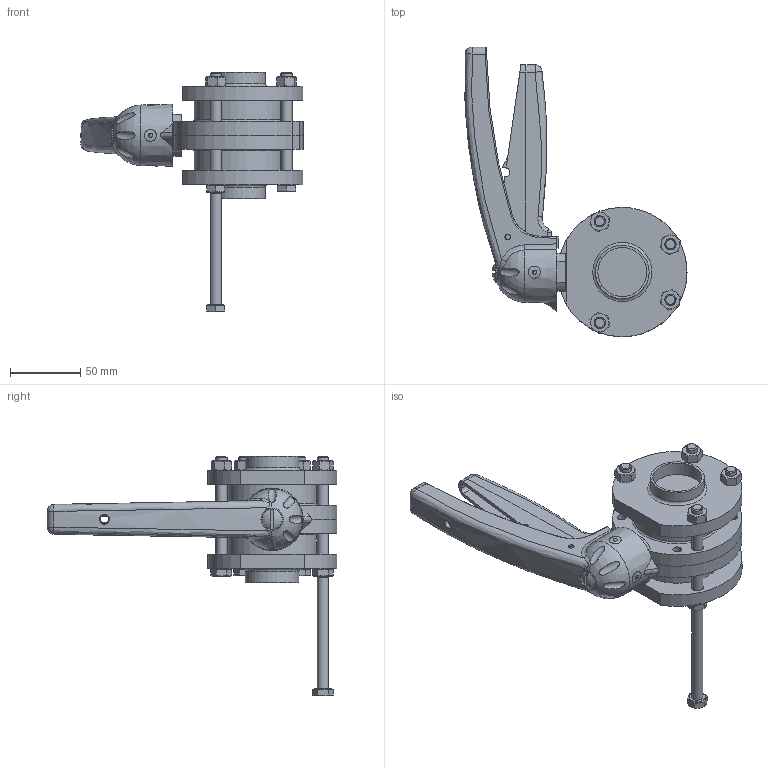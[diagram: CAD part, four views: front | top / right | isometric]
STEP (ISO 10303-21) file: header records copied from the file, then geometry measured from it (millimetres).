
FILE_DESCRIPTION(/* description */ ('VVFEX VALV.FARF.ATEX DN38.1X1.65 WAF4 316 VIT LEVA 5POS.'),/* implementation_level */ '2;1');
FILE_NAME(/* name */ 'C:\_DED_PWS\MARZ-M\DB\B\EBA\BEBAD9112BVAI-00^SAGOMA.step',/* time_stamp */ '2019-05-23T16:06:57+02:00',/* author */ (''),/* organization */ (''),/* preprocessor_version */ 'ST-DEVELOPER v17',/* originating_system */ 'Autodesk Inventor 2018',/* authorisation */ '');
FILE_SCHEMA (('CONFIG_CONTROL_DESIGN'));
Length unit declared in the file: millimetre
Products named in the file (6): BEBAD9112BVAI; UNI 5588 - M8; UNI 5739 - M8 x 80; TWD030040BBA; TPM022112BBA; Maniglia-5-posizioni-nuova-versione finale 01-2008- 25 - - 65
Assembly tree (14 placements, depth 2):
  BEBAD9112BVAI
    TPM022112BBA  x2
    UNI 5588 - M8  x4
    UNI 5739 - M8 x 80  x5
    TWD030040BBA  x2
    Maniglia-5-posizioni-nuova-versione finale 01-2008- 25 - - 65
Bounding box: 157.9 x 205.97 x 170.6 mm (x, y, z)
Volume: 470039.5 mm3; surface area: 145914.8 mm2
Topology: 14 solids, 15 shells, 659 faces, 1679 edges, 1077 vertices
Faces by surface type: plane 290, cylinder 138, cone 119, bspline 81, sphere 18, torus 13
Full cylindrical faces by diameter (mm): 4 x3, 6 x2, 6.2 x8, 6.5 x1, 6.647 x4, 8 x5, 8.5 x12, 11.63 x5, 13 x1, 14.5 x1, 34.8 x2, 38.1 x2, 63 x2
Entity records: 24332 total; most frequent: CARTESIAN_POINT 12395, ORIENTED_EDGE 2520, DIRECTION 2205, EDGE_CURVE 1260, AXIS2_PLACEMENT_3D 813, VERTEX_POINT 810, LINE 579, VECTOR 579
